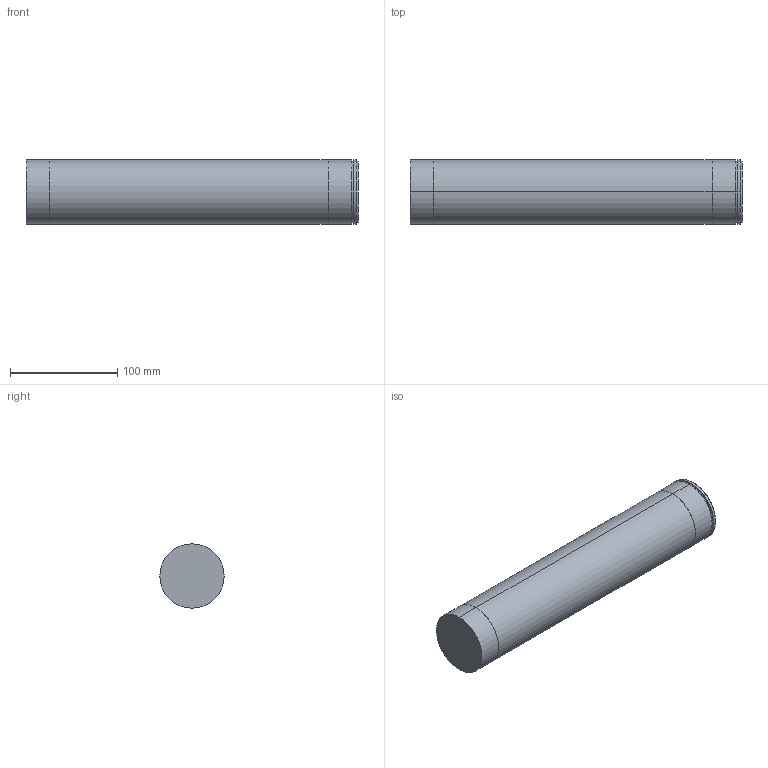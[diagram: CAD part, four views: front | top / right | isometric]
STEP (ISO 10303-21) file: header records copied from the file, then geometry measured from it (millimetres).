
FILE_DESCRIPTION (( 'STEP AP203' ), '1' );
FILE_NAME ('S7-60.STEP', '2002-08-16T10:51:44', ( '.' ), ( '.' ), 'SwSTEP 2.0', 'SolidWorks 2001340', '' );
FILE_SCHEMA (( 'CONFIG_CONTROL_DESIGN' ));
Length unit declared in the file: millimetre
Products named in the file (1): S7-60
Bounding box: 310 x 60 x 60 mm (x, y, z)
Volume: 870810.4 mm3; surface area: 64325.3 mm2
Topology: 1 solids, 1 shells, 18 faces, 34 edges, 22 vertices
Faces by surface type: cylinder 10, plane 6, cone 2
Entity records: 541 total; most frequent: DIRECTION 94, CARTESIAN_POINT 75, ORIENTED_EDGE 68, AXIS2_PLACEMENT_3D 41, EDGE_CURVE 34, VERTEX_POINT 22, EDGE_LOOP 22, CIRCLE 22
